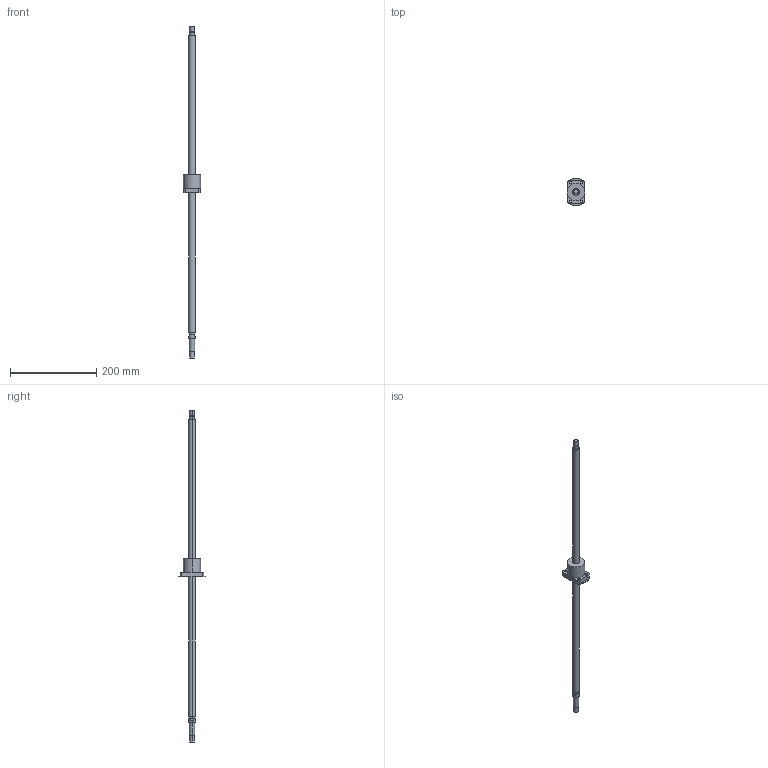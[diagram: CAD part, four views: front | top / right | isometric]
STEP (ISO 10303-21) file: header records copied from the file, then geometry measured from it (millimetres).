
FILE_DESCRIPTION((''),'2;1');
FILE_NAME('R16-5B1-FSW-689-771','2008-03-28T',('mahdi'),(''),'PRO/ENGINEER BY PARAMETRIC TECHNOLOGY CORPORATION, 2005070','PRO/ENGINEER BY PARAMETRIC TECHNOLOGY CORPORATION, 2005070','');
FILE_SCHEMA(('CONFIG_CONTROL_DESIGN'));
Length unit declared in the file: millimetre
Products named in the file (1): R16-5B1-FSW-689-771
Bounding box: 40 x 63 x 771 mm (x, y, z)
Volume: 199557.1 mm3; surface area: 47022.7 mm2
Topology: 1 solids, 1 shells, 66 faces, 148 edges, 96 vertices
Faces by surface type: cylinder 38, plane 28
Entity records: 1926 total; most frequent: DIRECTION 364, CARTESIAN_POINT 310, ORIENTED_EDGE 296, AXIS2_PLACEMENT_3D 150, EDGE_CURVE 148, VERTEX_POINT 96, EDGE_LOOP 86, CIRCLE 84
